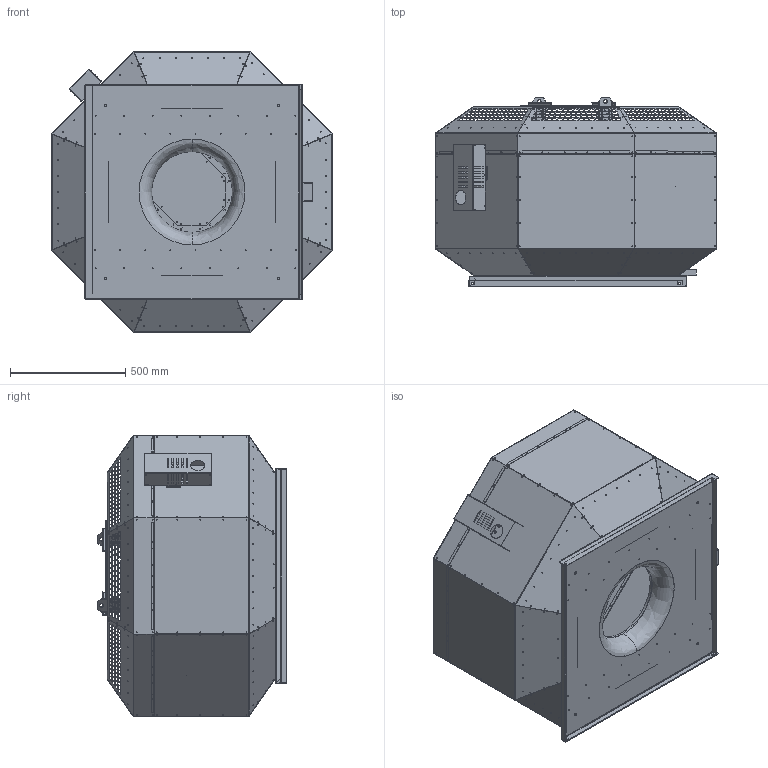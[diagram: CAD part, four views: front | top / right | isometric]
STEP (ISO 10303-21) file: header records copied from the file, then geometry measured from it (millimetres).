
FILE_DESCRIPTION (( 'STEP AP203' ), '1' );
FILE_NAME ('144624-00_DVNI560D4F430_step.step', '2018-07-19T06:16:49', ( '' ), ( '' ), 'SwSTEP 2.0', 'SolidWorks 2017', '' );
FILE_SCHEMA (( 'CONFIG_CONTROL_DESIGN' ));
Products named in the file (1): 144624-00_DVNI560D4F430_step
Bounding box: 1218 x 817.7 x 1218 mm (x, y, z)
Surface area: 10214332 mm2 (no closed solid volume)
Topology: 0 solids, 56 shells, 1880 faces, 15948 edges, 13427 vertices
Faces by surface type: plane 1433, cylinder 434, bspline 9, torus 4
Entity records: 154516 total; most frequent: CARTESIAN_POINT 35041, DIRECTION 22030, ORIENTED_EDGE 19739, EDGE_CURVE 15948, VERTEX_POINT 13427, VECTOR 13256, LINE 13256, EDGE_LOOP 5423
